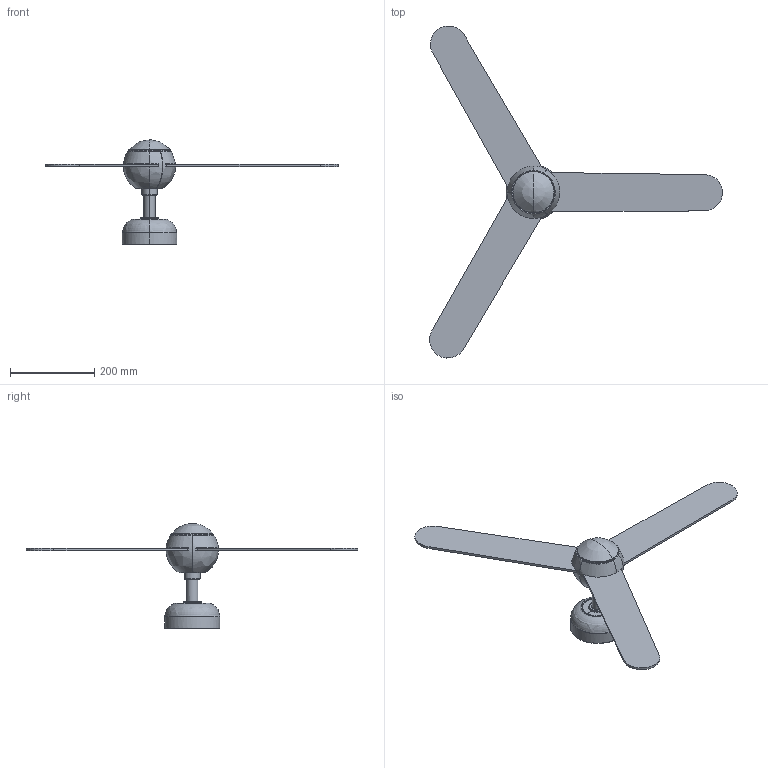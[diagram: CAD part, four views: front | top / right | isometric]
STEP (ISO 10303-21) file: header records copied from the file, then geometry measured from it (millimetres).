
FILE_DESCRIPTION(/* description */ (''),/* implementation_level */ '2;1');
FILE_NAME(/* name */ '34271.step',/* time_stamp */ '2024-04-24T08:59:06+02:00',/* author */ ('RenataManzini'),/* organization */ (''),/* preprocessor_version */ 'ST-DEVELOPER v20',/* originating_system */ 'AutoCAD Mechanical',/* authorisation */ '');
FILE_SCHEMA (('AUTOMOTIVE_DESIGN { 1 0 10303 214 3 1 1 }'));
Length unit declared in the file: millimetre
Products named in the file (2): Product; SFERA_S - fan-522945-_3D_
Assembly tree (1 placements, depth 2):
  Product
    SFERA_S - fan-522945-_3D_
Bounding box: 693.96 x 786.8 x 248.42 mm (x, y, z)
Volume: 1102254.9 mm3; surface area: 451246.8 mm2
Topology: 10 solids, 10 shells, 257 faces, 702 edges, 457 vertices
Faces by surface type: plane 140, cylinder 66, torus 30, bspline 14, cone 7
Entity records: 10541 total; most frequent: CARTESIAN_POINT 4238, ORIENTED_EDGE 1394, DIRECTION 1166, EDGE_CURVE 697, VERTEX_POINT 452, AXIS2_PLACEMENT_3D 408, LINE 350, VECTOR 350
